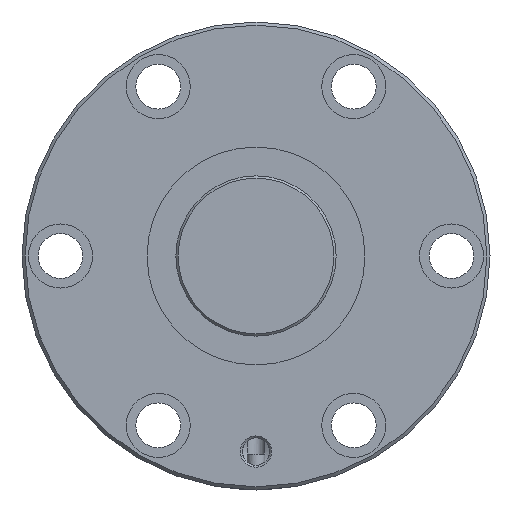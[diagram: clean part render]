
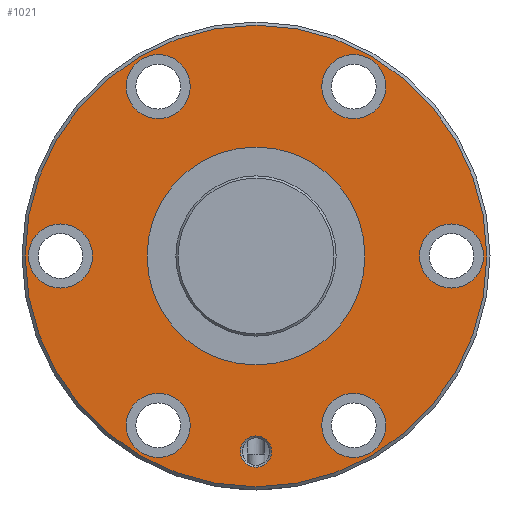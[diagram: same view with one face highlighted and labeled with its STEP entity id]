
A CAD part, left-side view. The second image highlights one B-rep face of the part: STEP entity #1021.
In plain terms, the highlighted planar face has unit normal (-1, 0, 0).
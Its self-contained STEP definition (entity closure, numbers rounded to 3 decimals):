
#162=ORIENTED_EDGE('',*,*,#385,.T.);
#163=ORIENTED_EDGE('',*,*,#386,.T.);
#164=ORIENTED_EDGE('',*,*,#387,.T.);
#165=ORIENTED_EDGE('',*,*,#388,.T.);
#166=ORIENTED_EDGE('',*,*,#389,.T.);
#167=ORIENTED_EDGE('',*,*,#390,.T.);
#168=ORIENTED_EDGE('',*,*,#391,.T.);
#169=ORIENTED_EDGE('',*,*,#392,.T.);
#170=ORIENTED_EDGE('',*,*,#384,.F.);
#384=EDGE_CURVE('',#499,#499,#593,.T.);
#385=EDGE_CURVE('',#500,#500,#594,.T.);
#386=EDGE_CURVE('',#501,#501,#595,.F.);
#387=EDGE_CURVE('',#502,#502,#596,.T.);
#388=EDGE_CURVE('',#503,#503,#597,.T.);
#389=EDGE_CURVE('',#504,#504,#598,.T.);
#390=EDGE_CURVE('',#505,#505,#599,.T.);
#391=EDGE_CURVE('',#506,#506,#600,.T.);
#392=EDGE_CURVE('',#507,#507,#601,.T.);
#499=VERTEX_POINT('',#1713);
#500=VERTEX_POINT('',#1716);
#501=VERTEX_POINT('',#1718);
#502=VERTEX_POINT('',#1720);
#503=VERTEX_POINT('',#1722);
#504=VERTEX_POINT('',#1724);
#505=VERTEX_POINT('',#1726);
#506=VERTEX_POINT('',#1728);
#507=VERTEX_POINT('',#1730);
#593=CIRCLE('',#1136,72.);
#594=CIRCLE('',#1138,34.);
#595=CIRCLE('',#1139,10.);
#596=CIRCLE('',#1140,4.864);
#597=CIRCLE('',#1141,10.);
#598=CIRCLE('',#1142,10.);
#599=CIRCLE('',#1143,10.);
#600=CIRCLE('',#1144,10.);
#601=CIRCLE('',#1145,10.);
#682=EDGE_LOOP('',(#162));
#683=EDGE_LOOP('',(#163));
#684=EDGE_LOOP('',(#164));
#685=EDGE_LOOP('',(#165));
#686=EDGE_LOOP('',(#166));
#687=EDGE_LOOP('',(#167));
#688=EDGE_LOOP('',(#168));
#689=EDGE_LOOP('',(#169));
#690=EDGE_LOOP('',(#170));
#842=FACE_BOUND('',#682,.T.);
#843=FACE_BOUND('',#683,.T.);
#844=FACE_BOUND('',#684,.T.);
#845=FACE_BOUND('',#685,.T.);
#846=FACE_BOUND('',#686,.T.);
#847=FACE_BOUND('',#687,.T.);
#848=FACE_BOUND('',#688,.T.);
#849=FACE_BOUND('',#689,.T.);
#850=FACE_BOUND('',#690,.T.);
#984=PLANE('',#1137);
#1021=ADVANCED_FACE('',(#842,#843,#844,#845,#846,#847,#848,#849,#850),#984,
 .T.);
#1136=AXIS2_PLACEMENT_3D('',#1712,#1322,#1323);
#1137=AXIS2_PLACEMENT_3D('',#1714,#1324,#1325);
#1138=AXIS2_PLACEMENT_3D('',#1715,#1326,#1327);
#1139=AXIS2_PLACEMENT_3D('',#1717,#1328,#1329);
#1140=AXIS2_PLACEMENT_3D('',#1719,#1330,#1331);
#1141=AXIS2_PLACEMENT_3D('',#1721,#1332,#1333);
#1142=AXIS2_PLACEMENT_3D('',#1723,#1334,#1335);
#1143=AXIS2_PLACEMENT_3D('',#1725,#1336,#1337);
#1144=AXIS2_PLACEMENT_3D('',#1727,#1338,#1339);
#1145=AXIS2_PLACEMENT_3D('',#1729,#1340,#1341);
#1322=DIRECTION('',(1.,0.,0.));
#1323=DIRECTION('',(0.,0.,-1.));
#1324=DIRECTION('',(-1.,0.,0.));
#1325=DIRECTION('',(0.,0.,1.));
#1326=DIRECTION('',(1.,0.,0.));
#1327=DIRECTION('',(0.,0.,-1.));
#1328=DIRECTION('',(-1.,0.,0.));
#1329=DIRECTION('',(0.,0.,1.));
#1330=DIRECTION('',(1.,0.,0.));
#1331=DIRECTION('',(0.,0.,-1.));
#1332=DIRECTION('',(1.,0.,0.));
#1333=DIRECTION('',(0.,0.,-1.));
#1334=DIRECTION('',(1.,0.,0.));
#1335=DIRECTION('',(0.,0.,-1.));
#1336=DIRECTION('',(1.,0.,0.));
#1337=DIRECTION('',(0.,0.,-1.));
#1338=DIRECTION('',(1.,0.,0.));
#1339=DIRECTION('',(0.,0.,-1.));
#1340=DIRECTION('',(1.,0.,0.));
#1341=DIRECTION('',(0.,0.,-1.));
#1712=CARTESIAN_POINT('',(0.,0.,0.));
#1713=CARTESIAN_POINT('',(0.,0.,-72.));
#1714=CARTESIAN_POINT('',(0.,72.,0.));
#1715=CARTESIAN_POINT('',(0.,0.,0.));
#1716=CARTESIAN_POINT('',(0.,0.,-34.));
#1717=CARTESIAN_POINT('',(0.,61.,0.));
#1718=CARTESIAN_POINT('',(0.,61.,10.));
#1719=CARTESIAN_POINT('',(0.,0.,-61.));
#1720=CARTESIAN_POINT('',(0.,0.,-65.864));
#1721=CARTESIAN_POINT('',(0.,-61.,0.));
#1722=CARTESIAN_POINT('',(0.,-61.,-10.));
#1723=CARTESIAN_POINT('',(0.,30.5,52.828));
#1724=CARTESIAN_POINT('',(0.,30.5,42.828));
#1725=CARTESIAN_POINT('',(0.,-30.5,-52.828));
#1726=CARTESIAN_POINT('',(0.,-30.5,-62.828));
#1727=CARTESIAN_POINT('',(0.,-30.5,52.828));
#1728=CARTESIAN_POINT('',(0.,-30.5,42.828));
#1729=CARTESIAN_POINT('',(0.,30.5,-52.828));
#1730=CARTESIAN_POINT('',(0.,30.5,-62.828));
